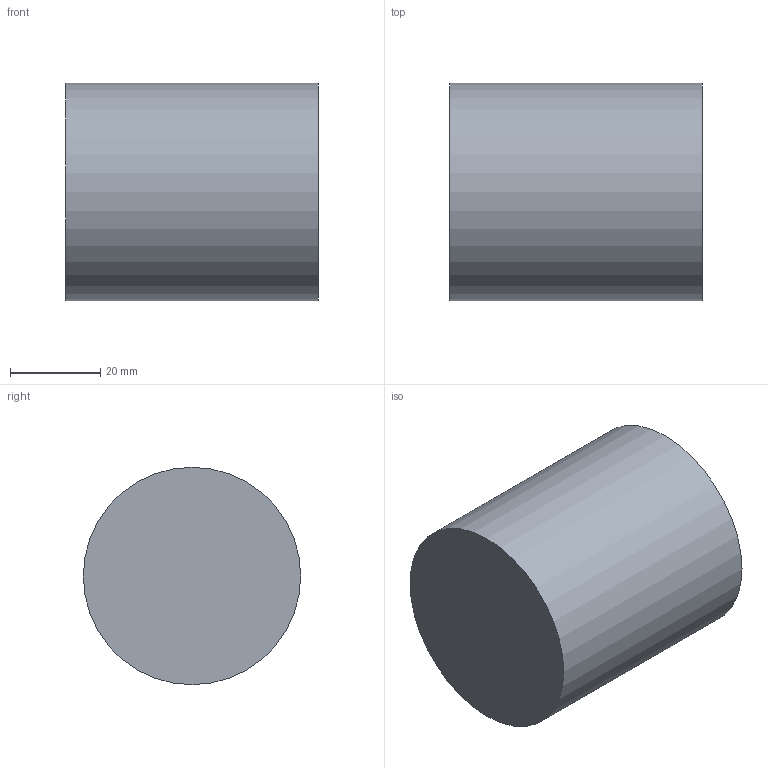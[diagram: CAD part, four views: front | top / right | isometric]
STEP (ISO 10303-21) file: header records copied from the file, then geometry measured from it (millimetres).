
FILE_DESCRIPTION(/* description */ (''),/* implementation_level */ '2;1');
FILE_NAME(/* name */ 'Endkappe 48.3.stp',/* time_stamp */ '2024-03-12T15:54:38+01:00',/* author */ ('peter.csaszar'),/* organization */ (''),/* preprocessor_version */ 'ST-DEVELOPER v20',/* originating_system */ 'Autodesk Inventor 2024',/* authorisation */ '');
FILE_SCHEMA (('AUTOMOTIVE_DESIGN { 1 0 10303 214 3 1 1 }'));
Length unit declared in the file: millimetre
Products named in the file (1): Bauteil1
Bounding box: 56 x 48.3 x 48.3 mm (x, y, z)
Volume: 19373.7 mm3; surface area: 19677.2 mm2
Topology: 1 solids, 1 shells, 5 faces, 6 edges, 4 vertices
Faces by surface type: plane 3, cylinder 2
Full cylindrical faces by diameter (mm): 44.3 x1, 48.3 x1
Entity records: 147 total; most frequent: DIRECTION 22, CARTESIAN_POINT 16, ORIENTED_EDGE 12, AXIS2_PLACEMENT_3D 10, EDGE_LOOP 6, EDGE_CURVE 6, FACE_OUTER_BOUND 5, ADVANCED_FACE 5
